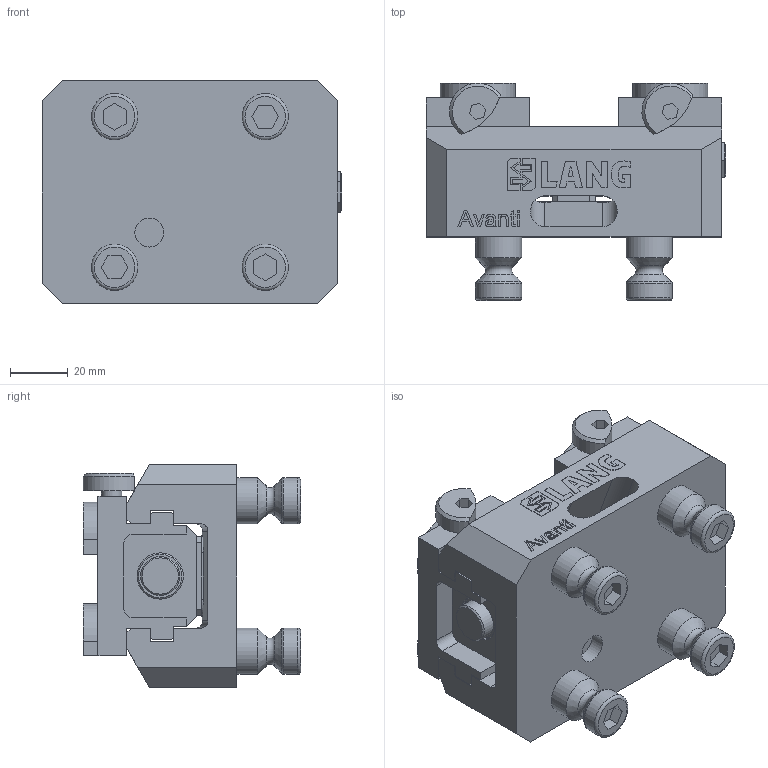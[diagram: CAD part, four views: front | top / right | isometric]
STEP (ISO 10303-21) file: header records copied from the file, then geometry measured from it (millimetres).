
FILE_DESCRIPTION (( 'STEP AP214' ), '1' );
FILE_NAME ('44085-46.STEP', '2020-02-07T14:56:16', ( '' ), ( '' ), 'SwSTEP 2.0', 'SolidWorks 2019', '' );
FILE_SCHEMA (( 'AUTOMOTIVE_DESIGN' ));
Length unit declared in the file: millimetre
Products named in the file (3): Avanti_44085-46; 44771-46; 44085-46
Assembly tree (3 placements, depth 2):
  44085-46
    Avanti_44085-46
    44771-46  x2
Bounding box: 103.54 x 75.02 x 77.2 mm (x, y, z)
Volume: 286771.8 mm3; surface area: 78562.5 mm2
Topology: 38 solids, 38 shells, 764 faces, 1926 edges, 1263 vertices
Faces by surface type: plane 569, bspline 98, cylinder 64, cone 21, torus 12
Full cylindrical faces by diameter (mm): 6.8 x4, 7 x2, 10 x1, 12 x8, 13.5 x1, 16 x12
Entity records: 30844 total; most frequent: CARTESIAN_POINT 6886, ORIENTED_EDGE 3380, DIRECTION 2778, EDGE_CURVE 1690, VECTOR 1356, LINE 1356, VERTEX_POINT 1143, EDGE_LOOP 795
